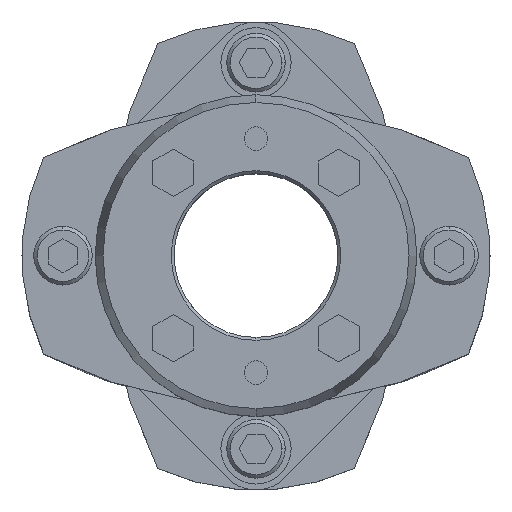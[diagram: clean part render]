
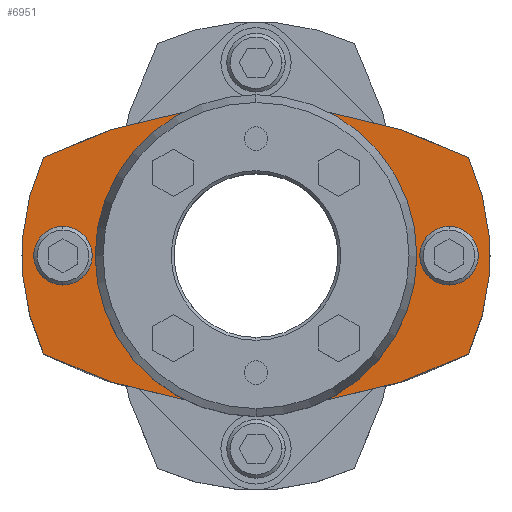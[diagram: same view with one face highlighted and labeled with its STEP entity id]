
A CAD part, top view. The second image highlights one B-rep face of the part: STEP entity #6951.
In plain terms, the highlighted planar face has unit normal (0, 0, 1).
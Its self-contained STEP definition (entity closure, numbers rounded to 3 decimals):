
#1593=CARTESIAN_POINT('',(0.,25.5,19.25));
#1594=VERTEX_POINT('',#1593);
#1610=CARTESIAN_POINT('',(-36.307,16.787,19.25));
#1611=VERTEX_POINT('',#1610);
#1618=CARTESIAN_POINT('',(0.,-54.5,19.25));
#1619=DIRECTION('',(0.0,0.0,-1.0));
#1620=DIRECTION('',(0.,1.0,0.0));
#1621=AXIS2_PLACEMENT_3D('',#1618,#1619,#1620);
#1622=CIRCLE('',#1621,80.);
#1623=EDGE_CURVE('',#1611,#1594,#1622,.T.);
#1633=CARTESIAN_POINT('',(0.,-25.5,19.25));
#1634=VERTEX_POINT('',#1633);
#1643=CARTESIAN_POINT('',(-36.307,-16.787,19.25));
#1644=VERTEX_POINT('',#1643);
#1645=CARTESIAN_POINT('',(0.,54.5,19.25));
#1646=DIRECTION('',(0.0,0.0,-1.0));
#1647=DIRECTION('',(0.,1.0,0.0));
#1648=AXIS2_PLACEMENT_3D('',#1645,#1646,#1647);
#1649=CIRCLE('',#1648,80.);
#1650=EDGE_CURVE('',#1634,#1644,#1649,.T.);
#1899=CARTESIAN_POINT('',(0.,24.,19.25));
#1900=VERTEX_POINT('',#1899);
#1950=CARTESIAN_POINT('',(0.,-24.,19.25));
#1951=VERTEX_POINT('',#1950);
#1958=CARTESIAN_POINT('',(0.,0.,19.25));
#1959=DIRECTION('',(0.0,0.0,-1.0));
#1960=DIRECTION('',(0.,1.0,0.0));
#1961=AXIS2_PLACEMENT_3D('',#1958,#1959,#1960);
#1962=CIRCLE('',#1961,24.0);
#1963=EDGE_CURVE('',#1900,#1951,#1962,.T.);
#2059=CARTESIAN_POINT('',(33.,5.,19.25));
#2060=VERTEX_POINT('',#2059);
#2076=CARTESIAN_POINT('',(33.,-5.,19.25));
#2077=VERTEX_POINT('',#2076);
#2084=CARTESIAN_POINT('',(33.,0.,19.25));
#2085=DIRECTION('',(0.0,0.0,-1.0));
#2086=DIRECTION('',(0.,1.0,0.0));
#2087=AXIS2_PLACEMENT_3D('',#2084,#2085,#2086);
#2088=CIRCLE('',#2087,5.0);
#2089=EDGE_CURVE('',#2060,#2077,#2088,.T.);
#2133=CARTESIAN_POINT('',(-33.,5.,19.25));
#2134=VERTEX_POINT('',#2133);
#2150=CARTESIAN_POINT('',(-33.,-5.,19.25));
#2151=VERTEX_POINT('',#2150);
#2158=CARTESIAN_POINT('',(-33.,0.,19.25));
#2159=DIRECTION('',(0.0,0.0,-1.0));
#2160=DIRECTION('',(0.,1.0,0.0));
#2161=AXIS2_PLACEMENT_3D('',#2158,#2159,#2160);
#2162=CIRCLE('',#2161,5.0);
#2163=EDGE_CURVE('',#2134,#2151,#2162,.T.);
#5502=CARTESIAN_POINT('',(-33.,0.,19.25));
#5503=DIRECTION('',(0.0,0.0,-1.0));
#5504=DIRECTION('',(0.,1.0,0.0));
#5505=AXIS2_PLACEMENT_3D('',#5502,#5503,#5504);
#5506=CIRCLE('',#5505,5.0);
#5507=EDGE_CURVE('',#2151,#2134,#5506,.T.);
#5562=CARTESIAN_POINT('',(33.,0.,19.25));
#5563=DIRECTION('',(0.0,0.0,-1.0));
#5564=DIRECTION('',(0.,1.0,0.0));
#5565=AXIS2_PLACEMENT_3D('',#5562,#5563,#5564);
#5566=CIRCLE('',#5565,5.0);
#5567=EDGE_CURVE('',#2077,#2060,#5566,.T.);
#6634=CARTESIAN_POINT('',(0.,0.,19.25));
#6635=DIRECTION('',(0.0,0.0,-1.0));
#6636=DIRECTION('',(0.,1.0,0.0));
#6637=AXIS2_PLACEMENT_3D('',#6634,#6635,#6636);
#6638=CIRCLE('',#6637,24.0);
#6639=EDGE_CURVE('',#1951,#1900,#6638,.T.);
#6847=CARTESIAN_POINT('',(36.307,-16.787,19.25));
#6848=VERTEX_POINT('',#6847);
#6855=CARTESIAN_POINT('',(0.,54.5,19.25));
#6856=DIRECTION('',(0.0,0.0,-1.0));
#6857=DIRECTION('',(0.,1.0,0.0));
#6858=AXIS2_PLACEMENT_3D('',#6855,#6856,#6857);
#6859=CIRCLE('',#6858,80.);
#6860=EDGE_CURVE('',#6848,#1634,#6859,.T.);
#6870=CARTESIAN_POINT('',(0.,0.,19.25));
#6871=DIRECTION('',(0.0,0.0,-1.0));
#6872=DIRECTION('',(0.,1.0,0.0));
#6873=AXIS2_PLACEMENT_3D('',#6870,#6871,#6872);
#6874=CIRCLE('',#6873,40.);
#6875=EDGE_CURVE('',#1644,#1611,#6874,.T.);
#6889=CARTESIAN_POINT('',(36.307,16.787,19.25));
#6890=VERTEX_POINT('',#6889);
#6891=CARTESIAN_POINT('',(0.,-54.5,19.25));
#6892=DIRECTION('',(0.0,0.0,-1.0));
#6893=DIRECTION('',(0.,1.0,0.0));
#6894=AXIS2_PLACEMENT_3D('',#6891,#6892,#6893);
#6895=CIRCLE('',#6894,80.);
#6896=EDGE_CURVE('',#1594,#6890,#6895,.T.);
#6913=CARTESIAN_POINT('',(0.,0.,19.25));
#6914=DIRECTION('',(0.0,0.0,-1.0));
#6915=DIRECTION('',(0.,1.0,0.0));
#6916=AXIS2_PLACEMENT_3D('',#6913,#6914,#6915);
#6917=CIRCLE('',#6916,40.);
#6918=EDGE_CURVE('',#6890,#6848,#6917,.T.);
#6926=CARTESIAN_POINT('',(0.,0.,19.25));
#6927=DIRECTION('',(0.0,0.0,1.0));
#6928=DIRECTION('',(0.,1.0,0.0));
#6929=AXIS2_PLACEMENT_3D('',#6926,#6927,#6928);
#6930=PLANE('',#6929);
#6931=ORIENTED_EDGE('',*,*,#6860,.F.);
#6932=ORIENTED_EDGE('',*,*,#6918,.F.);
#6933=ORIENTED_EDGE('',*,*,#6896,.F.);
#6934=ORIENTED_EDGE('',*,*,#1623,.F.);
#6935=ORIENTED_EDGE('',*,*,#6875,.F.);
#6936=ORIENTED_EDGE('',*,*,#1650,.F.);
#6937=EDGE_LOOP('',(#6931,#6932,#6933,#6934,#6935,#6936));
#6938=FACE_OUTER_BOUND('',#6937,.T.);
#6939=ORIENTED_EDGE('',*,*,#2163,.T.);
#6940=ORIENTED_EDGE('',*,*,#5507,.T.);
#6941=EDGE_LOOP('',(#6939,#6940));
#6942=FACE_BOUND('',#6941,.T.);
#6943=ORIENTED_EDGE('',*,*,#2089,.T.);
#6944=ORIENTED_EDGE('',*,*,#5567,.T.);
#6945=EDGE_LOOP('',(#6943,#6944));
#6946=FACE_BOUND('',#6945,.T.);
#6947=ORIENTED_EDGE('',*,*,#1963,.T.);
#6948=ORIENTED_EDGE('',*,*,#6639,.T.);
#6949=EDGE_LOOP('',(#6947,#6948));
#6950=FACE_BOUND('',#6949,.T.);
#6951=ADVANCED_FACE('',(#6938,#6942,#6946,#6950),#6930,.T.);
